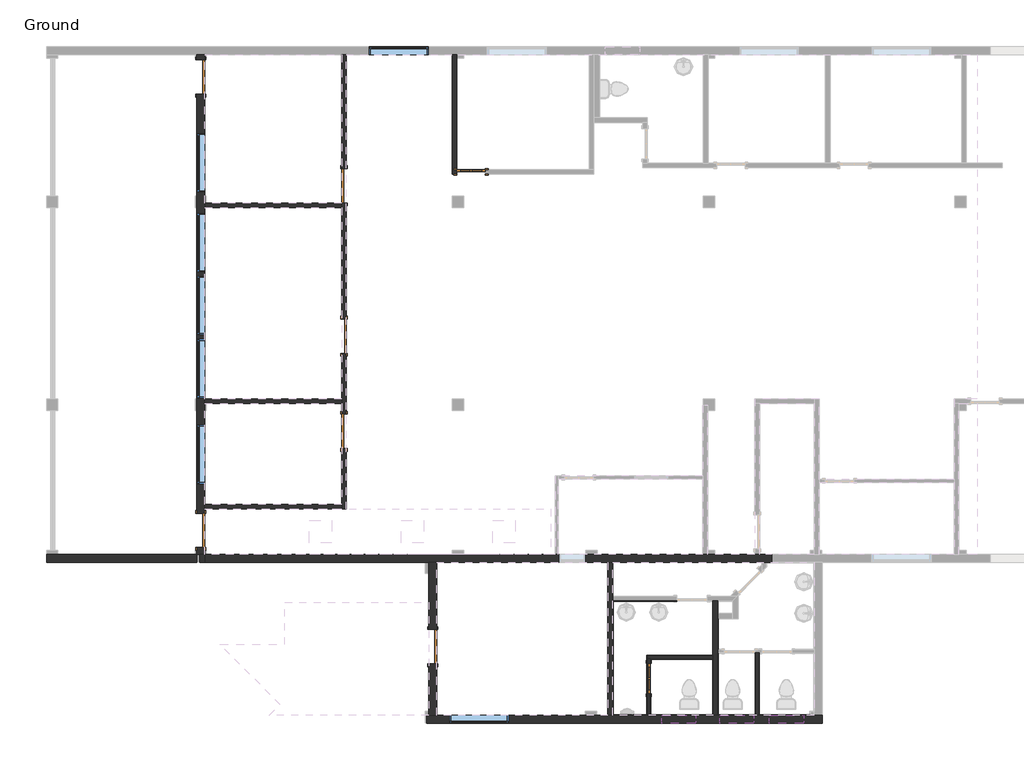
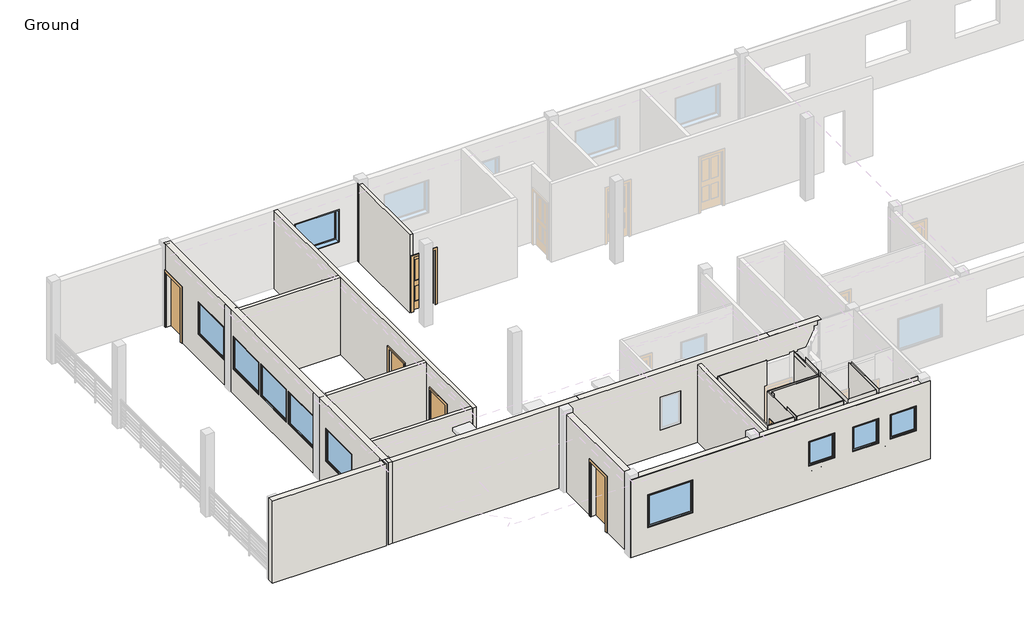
# One storey, part 1 of 4: 33 walls, 10 windows, 8 doors.
"""IFC4 building model written with IfcOpenShell, lengths in millimetres."""

from ifc_helpers import new_model, si_unit, frame, origin, origin_with_axes, place, context, project, spatial, polyline, outline, extrude, faceted_brep, transform, mapped, element, save
from components import door_43f271b1, door_0f3f7c0c, door_dce19e30, door_55521cee, door_bfc1a142, door_456b505c, fixed_3_x_3_w3_42a4cb5f, window_a0bf6c86

model = new_model("IFC4")

# Units and contexts
model_context = context("Model", 3, world=origin())
ifc_project = project(units=[si_unit("LENGTHUNIT", "METRE", prefix="MILLI")], contexts=[model_context])

# Site, building, storey
site = spatial("IfcSite", under=ifc_project)
building = spatial("IfcBuilding", under=site)
storey = spatial("IfcBuildingStorey", under=building, Name="Ground", Elevation=0.0)

# Doors
placement = place(None, origin())
door_shape = door_43f271b1(model_context)
element("IfcDoor", 1, ObjectType="Single-Flush : 36\" x 80\" - D1", at=placement, inside=storey, context=model_context, shape_type="MappedRepresentation", body=[
    mapped(door_shape, transform((-36104.115324, 12255.47279, 0.0), x_axis=(0.0, 1.0, 0.0), y_axis=(-1.0, 0.0, 0.0), z_axis=(0.0, 0.0, 1.0))),
])
element("IfcDoor", 2, ObjectType="Single-Flush : 36\" x 80\" - D1", at=placement, inside=storey, context=model_context, shape_type="MappedRepresentation", body=[
    mapped(door_shape, transform((-36104.115324, 14793.88529, 0.0), x_axis=(0.0, -1.0, 0.0), y_axis=(1.0, 0.0, 0.0), z_axis=(0.0, 0.0, 1.0))),
])
door_2_shape = door_0f3f7c0c(model_context)
element("IfcDoor", 3, ObjectType="Single-Flush : 36\" x 80\" - D1", at=placement, inside=storey, context=model_context, shape_type="MappedRepresentation", body=[
    mapped(door_2_shape, transform((-36104.115324, 18807.08529, 0.0), x_axis=(0.0, -1.0, 0.0), y_axis=(1.0, 0.0, 0.0), z_axis=(0.0, 0.0, 1.0))),
])
door_3_shape = door_dce19e30(model_context)
element("IfcDoor", 4, ObjectType="Single-Flush : 36\" x 80\" - D1", at=placement, inside=storey, context=model_context, shape_type="MappedRepresentation", body=[
    mapped(door_3_shape, transform((-39928.402824, 9610.9623734, 0.0), x_axis=(0.0, -1.0, 0.0), y_axis=(1.0, 0.0, 0.0), z_axis=(0.0, 0.0, 1.0))),
])
element("IfcDoor", 5, ObjectType="Single-Flush : 36\" x 80\" - D1", at=placement, inside=storey, context=model_context, shape_type="MappedRepresentation", body=[
    mapped(door_3_shape, transform((-33741.915324, 6503.96029, 0.0), x_axis=(0.0, -1.0, 0.0), y_axis=(1.0, 0.0, 0.0), z_axis=(0.0, 0.0, 1.0))),
])
door_4_shape = door_55521cee(model_context)
element("IfcDoor", 6, ObjectType="Single-Flush : 36\" x 80\" - D1", at=placement, inside=storey, context=model_context, shape_type="MappedRepresentation", body=[
    mapped(door_4_shape, transform((-39928.402824, 21710.62279, 0.0), x_axis=(0.0, 1.0, 0.0), y_axis=(-1.0, 0.0, 0.0), z_axis=(0.0, 0.0, 1.0))),
])
door_5_shape = door_bfc1a142(model_context)
element("IfcDoor", 7, ObjectType="Single-Glass 3 : 30\" x 80\" - D3", at=placement, inside=storey, context=model_context, shape_type="MappedRepresentation", body=[
    mapped(door_5_shape, transform((-32717.977824, 19180.14779, 0.0), x_axis=(-1.0, 0.0, 0.0), y_axis=(0.0, -1.0, 0.0), z_axis=(0.0, 0.0, 1.0))),
])
door_6_shape = door_456b505c(model_context)
element("IfcDoor", 8, ObjectType="Single-Glass 3 : 32\" x 80\" - D2", at=placement, inside=storey, context=model_context, shape_type="MappedRepresentation", body=[
    mapped(door_6_shape, transform((-27979.290324, 5653.06029, 0.0), x_axis=(0.0, 1.0, 0.0), y_axis=(-1.0, 0.0, 0.0), z_axis=(0.0, 0.0, 1.0))),
])

# Walls
element("IfcWall", 9, ObjectType="0.5\" wall tiles-4\" x 6\"", at=placement, inside=storey, context=model_context, shape_type="Brep", body=[
    faceted_brep([(-27229.812848, 7724.74779, 0.0), (-28941.315324, 7724.74779, 0.0), (-28941.315324, 7724.74779, 3048.0), (-27229.812848, 7724.74779, 3048.0), (-27229.812848, 7712.04779, 0.0), (-27229.812848, 7712.04779, 3048.0), (-28928.615324, 7712.04779, 3048.0), (-28941.315324, 7712.04779, 3048.0), (-28941.315324, 7712.04779, 0.0), (-28928.615324, 7712.04779, 0.0)], [[[0, 1, 2, 3]], [[4, 5, 6, 7, 8, 9]], [[1, 0, 4, 9, 8]], [[3, 2, 7, 6, 5]], [[0, 3, 5, 4]], [[2, 1, 8, 7]]]),
])
element("IfcWall", 10, ObjectType="0.5\" wall tiles-4\" x 6\"", at=placement, inside=storey, context=model_context, shape_type="Brep", body=[
    faceted_brep([(-28941.315324, 7712.04779, 0.0), (-28941.315324, 4675.16029, 0.0), (-28941.315324, 4675.16029, 3048.0), (-28941.315324, 7712.04779, 3048.0), (-28928.615324, 7712.04779, 0.0), (-28928.615324, 7712.04779, 3048.0), (-28928.615324, 4687.86029, 3048.0), (-28928.615324, 4675.16029, 3048.0), (-28928.615324, 4675.16029, 0.0), (-28928.615324, 4687.86029, 0.0)], [[[0, 1, 2, 3]], [[4, 5, 6, 7, 8, 9]], [[1, 0, 4, 9, 8]], [[3, 2, 7, 6, 5]], [[2, 1, 8, 7]], [[0, 3, 5, 4]]]),
])
element("IfcWall", 11, ObjectType="0.5\" wall tiles-4\" x 6\"", at=placement, inside=storey, context=model_context, shape_type="Brep", body=[
    faceted_brep([(-28928.615324, 4675.16029, 0.0), (-28018.977824, 4675.16029, 0.0), (-28018.977824, 4675.16029, 3048.0), (-28928.615324, 4675.16029, 3048.0), (-28928.615324, 4687.86029, 0.0), (-28928.615324, 4687.86029, 3048.0), (-28031.677824, 4687.86029, 3048.0), (-28018.977824, 4687.86029, 3048.0), (-28018.977824, 4687.86029, 0.0), (-28031.677824, 4687.86029, 0.0)], [[[0, 1, 2, 3]], [[4, 5, 6, 7, 8, 9]], [[1, 0, 4, 9, 8]], [[3, 2, 7, 6, 5]], [[2, 1, 8, 7]], [[0, 3, 5, 4]]]),
])
element("IfcWall", 12, ObjectType="0.5\" wall tiles-4\" x 6\"", at=placement, inside=storey, context=model_context, shape_type="Brep", body=[
    faceted_brep([(-28018.977824, 4687.86029, 0.0), (-28018.977824, 6265.83529, 0.0), (-28018.977824, 6278.53529, 0.0), (-28018.977824, 6278.53529, 3048.0), (-28018.977824, 6265.83529, 3048.0), (-28018.977824, 4687.86029, 3048.0), (-28031.677824, 4687.86029, 0.0), (-28031.677824, 4687.86029, 3048.0), (-28031.677824, 6278.53529, 3048.0), (-28031.677824, 6278.53529, 0.0)], [[[0, 1, 2, 3, 4, 5]], [[6, 7, 8, 9]], [[2, 1, 0, 6, 9]], [[5, 4, 3, 8, 7]], [[3, 2, 9, 8]], [[0, 5, 7, 6]]]),
])
element("IfcWall", 13, ObjectType="0.5\" wall tiles-4\" x 6\"", at=placement, inside=storey, context=model_context, shape_type="Brep", body=[
    faceted_brep([(-28018.977824, 6265.83529, 0.0), (-26263.202824, 6265.83529, 0.0), (-26263.202824, 6265.83529, 3048.0), (-28018.977824, 6265.83529, 3048.0), (-28018.977824, 6278.53529, 0.0), (-28018.977824, 6278.53529, 3048.0), (-26275.902824, 6278.53529, 3048.0), (-26263.202824, 6278.53529, 3048.0), (-26263.202824, 6278.53529, 0.0), (-26275.902824, 6278.53529, 0.0)], [[[0, 1, 2, 3]], [[4, 5, 6, 7, 8, 9]], [[1, 0, 4, 9, 8]], [[3, 2, 7, 6, 5]], [[2, 1, 8, 7]], [[0, 3, 5, 4]]]),
])
element("IfcWall", 14, ObjectType="0.5\" wall tiles-4\" x 6\"", at=placement, inside=storey, context=model_context, shape_type="Brep", body=[
    faceted_brep([(-26263.202824, 6278.53529, 0.0), (-26263.202824, 7724.74779, 0.0), (-26263.202824, 7724.74779, 3048.0), (-26263.202824, 6278.53529, 3048.0), (-26275.902824, 6278.53529, 0.0), (-26275.902824, 6278.53529, 3048.0), (-26275.902824, 7712.04779, 3048.0), (-26275.902824, 7724.74779, 3048.0), (-26275.902824, 7724.74779, 0.0), (-26275.902824, 7712.04779, 0.0)], [[[0, 1, 2, 3]], [[4, 5, 6, 7, 8, 9]], [[1, 0, 4, 9, 8]], [[3, 2, 7, 6, 5]], [[2, 1, 8, 7]], [[0, 3, 5, 4]]]),
])
element("IfcWall", 15, ObjectType="0.5\" wall tiles-4\" x 6\"", at=placement, inside=storey, context=model_context, shape_type="Brep", body=[
    faceted_brep([(-26263.202824, 6186.46029, 0.0), (-27939.602824, 6186.46029, 0.0), (-27939.602824, 6186.46029, 3048.0), (-26263.202824, 6186.46029, 3048.0), (-26263.202824, 6173.76029, 0.0), (-26263.202824, 6173.76029, 3048.0), (-26275.902824, 6173.76029, 3048.0), (-27926.902824, 6173.76029, 3048.0), (-27939.602824, 6173.76029, 3048.0), (-27939.602824, 6173.76029, 0.0), (-27926.902824, 6173.76029, 0.0), (-26275.902824, 6173.76029, 0.0)], [[[0, 1, 2, 3]], [[4, 5, 6, 7, 8, 9, 10, 11]], [[1, 0, 4, 11, 10, 9]], [[3, 2, 8, 7, 6, 5]], [[2, 1, 9, 8]], [[0, 3, 5, 4]]]),
])
element("IfcWall", 16, ObjectType="0.5\" wall tiles-4\" x 6\"", at=placement, inside=storey, context=model_context, shape_type="SweptSolid", body=[
    extrude(outline(polyline([(-27939.602824, 6059.46029), (-27939.602824, 6173.76029), (-27926.902824, 6173.76029), (-27926.902824, 6059.46029), (-27939.602824, 6059.46029)])), origin_with_axes(), (0.0, 0.0, 1.0), 3048.0),
])
element("IfcWall", 17, ObjectType="0.5\" wall tiles-4\" x 6\"", at=placement, inside=storey, context=model_context, shape_type="Brep", body=[
    faceted_brep([(-26263.202824, 4675.16029, 0.0), (-26263.202824, 6173.76029, 0.0), (-26263.202824, 6173.76029, 3048.0), (-26263.202824, 4675.16029, 3048.0), (-26275.902824, 4675.16029, 0.0), (-26275.902824, 4675.16029, 3048.0), (-26275.902824, 4687.86029, 3048.0), (-26275.902824, 6173.76029, 3048.0), (-26275.902824, 6173.76029, 0.0), (-26275.902824, 4687.86029, 0.0)], [[[0, 1, 2, 3]], [[4, 5, 6, 7, 8, 9]], [[1, 0, 4, 9, 8]], [[3, 2, 7, 6, 5]], [[0, 3, 5, 4]], [[2, 1, 8, 7]]]),
])
element("IfcWall", 18, ObjectType="0.5\" wall tiles-4\" x 6\"", at=placement, inside=storey, context=model_context, shape_type="Brep", body=[
    faceted_brep([(-27939.602824, 5245.2502661, 0.0), (-27939.602824, 4675.16029, 0.0), (-27939.602824, 4675.16029, 3048.0), (-27939.602824, 5245.2502661, 3048.0), (-27926.902824, 5245.2502661, 0.0), (-27926.902824, 5245.2502661, 3048.0), (-27926.902824, 4687.86029, 3048.0), (-27926.902824, 4675.16029, 3048.0), (-27926.902824, 4675.16029, 0.0), (-27926.902824, 4687.86029, 0.0)], [[[0, 1, 2, 3]], [[4, 5, 6, 7, 8, 9]], [[1, 0, 4, 9, 8]], [[3, 2, 7, 6, 5]], [[0, 3, 5, 4]], [[2, 1, 8, 7]]]),
])
element("IfcWall", 19, ObjectType="0.5\" wall tiles-4\" x 6\"", at=placement, inside=storey, context=model_context, shape_type="SweptSolid", body=[
    extrude(outline(polyline([(-26275.902824, 4675.16029), (-27926.902824, 4675.16029), (-27926.902824, 4687.86029), (-26275.902824, 4687.86029), (-26275.902824, 4675.16029)])), origin_with_axes(), (0.0, 0.0, 1.0), 3048.0),
])
element("IfcWall", 20, ObjectType="0.5\" wall tiles-4\" x 6\"", at=placement, inside=storey, context=model_context, shape_type="Brep", body=[
    faceted_brep([(-26136.202824, 7242.14779, 0.0), (-26136.202824, 6430.93529, 0.0), (-26136.202824, 6430.93529, 3048.0), (-26136.202824, 7242.14779, 3048.0), (-26136.202824, 7242.14779, 2743.2), (-26123.502824, 7242.14779, 0.0), (-26123.502824, 7242.14779, 3048.0), (-26123.502824, 6430.93529, 3048.0), (-26123.502824, 6430.93529, 0.0)], [[[0, 1, 2, 3, 4]], [[5, 6, 7, 8]], [[1, 0, 5, 8]], [[3, 2, 7, 6]], [[2, 1, 8, 7]], [[0, 4, 3, 6, 5]]]),
])
element("IfcWall", 21, ObjectType="0.5\" wall tiles-4\" x 6\"", at=placement, inside=storey, context=model_context, shape_type="Brep", body=[
    faceted_brep([(-26136.202824, 6326.16029, 0.0), (-26136.202824, 4675.16029, 0.0), (-26136.202824, 4675.16029, 3048.0), (-26136.202824, 6326.16029, 3048.0), (-26123.502824, 6326.16029, 0.0), (-26123.502824, 6326.16029, 3048.0), (-26123.502824, 4687.86029, 3048.0), (-26123.502824, 4675.16029, 3048.0), (-26123.502824, 4675.16029, 0.0), (-26123.502824, 4687.86029, 0.0)], [[[0, 1, 2, 3]], [[4, 5, 6, 7, 8, 9]], [[1, 0, 4, 9, 8]], [[3, 2, 7, 6, 5]], [[2, 1, 8, 7]], [[0, 3, 5, 4]]]),
])
element("IfcWall", 22, ObjectType="0.5\" wall tiles-4\" x 6\"", at=placement, inside=storey, context=model_context, shape_type="Brep", body=[
    faceted_brep([(-26123.502824, 4675.16029, 0.0), (-25123.377824, 4675.16029, 0.0), (-25123.377824, 4675.16029, 3048.0), (-26123.502824, 4675.16029, 3048.0), (-26123.502824, 4687.86029, 0.0), (-26123.502824, 4687.86029, 3048.0), (-25136.077824, 4687.86029, 3048.0), (-25123.377824, 4687.86029, 3048.0), (-25123.377824, 4687.86029, 0.0), (-25136.077824, 4687.86029, 0.0)], [[[0, 1, 2, 3]], [[4, 5, 6, 7, 8, 9]], [[1, 0, 4, 9, 8]], [[3, 2, 7, 6, 5]], [[2, 1, 8, 7]], [[0, 3, 5, 4]]]),
])
element("IfcWall", 23, ObjectType="0.5\" wall tiles-4\" x 6\"", at=placement, inside=storey, context=model_context, shape_type="SweptSolid", body=[
    extrude(outline(polyline([(-25123.377824, 6337.27279), (-25123.377824, 4687.86029), (-25136.077824, 4687.86029), (-25136.077824, 6337.27279), (-25123.377824, 6337.27279)])), origin_with_axes(), (0.0, 0.0, 1.0), 3048.0),
])
element("IfcWall", 24, ObjectType="0.5\" wall tiles-4\" x 6\"", at=placement, inside=storey, context=model_context, shape_type="Brep", body=[
    faceted_brep([(-25044.002824, 6337.27279, 0.0), (-25044.002824, 4675.16029, 0.0), (-25044.002824, 4675.16029, 3048.0), (-25044.002824, 6337.27279, 3048.0), (-25031.302824, 6337.27279, 0.0), (-25031.302824, 6337.27279, 3048.0), (-25031.302824, 4687.86029, 3048.0), (-25031.302824, 4675.16029, 3048.0), (-25031.302824, 4675.16029, 0.0), (-25031.302824, 4687.86029, 0.0)], [[[0, 1, 2, 3]], [[4, 5, 6, 7, 8, 9]], [[1, 0, 4, 9, 8]], [[3, 2, 7, 6, 5]], [[0, 3, 5, 4]], [[2, 1, 8, 7]]]),
])
element("IfcWall", 25, ObjectType="0.5\" wall tiles-4\" x 6\"", at=placement, inside=storey, context=model_context, shape_type="Brep", body=[
    faceted_brep([(-25031.302824, 4675.16029, 0.0), (-23664.465324, 4675.16029, 0.0), (-23664.465324, 4675.16029, 3048.0), (-25031.302824, 4675.16029, 3048.0), (-25031.302824, 4687.86029, 0.0), (-25031.302824, 4687.86029, 3048.0), (-23677.165324, 4687.86029, 3048.0), (-23664.465324, 4687.86029, 3048.0), (-23664.465324, 4687.86029, 0.0), (-23677.165324, 4687.86029, 0.0)], [[[0, 1, 2, 3]], [[4, 5, 6, 7, 8, 9]], [[1, 0, 4, 9, 8]], [[3, 2, 7, 6, 5]], [[2, 1, 8, 7]], [[0, 3, 5, 4]]]),
])
element("IfcWall", 26, ObjectType="Generic - 8\" Masonry existing", at=placement, inside=storey, context=model_context, shape_type="Brep", body=[
    faceted_brep([(-40037.940324, 8972.52279, 3048.0), (-40037.940324, 22307.52279, 3048.0), (-40037.940324, 22307.52279, 0.0), (-40037.940324, 22167.82279, 0.0), (-40037.940324, 22167.82279, 2032.0), (-40037.940324, 21253.42279, 2032.0), (-40037.940324, 21253.42279, 0.0), (-40037.940324, 10068.1623734, 0.0), (-40037.940324, 10068.1623734, 2032.0), (-40037.940324, 9153.7623734, 2032.0), (-40037.940324, 9153.7623734, 0.0), (-40037.940324, 8972.52279, 0.0), (-40037.940324, 12426.92279, 914.4), (-40037.940324, 12426.92279, 2133.6), (-40037.940324, 10852.12279, 2133.6), (-40037.940324, 10852.12279, 914.4), (-40037.940324, 14716.09779, 2133.6), (-40037.940324, 13141.29779, 2133.6), (-40037.940324, 13141.29779, 914.4), (-40037.940324, 14716.09779, 914.4), (-40037.940324, 16402.02279, 2133.6), (-40037.940324, 14827.22279, 2133.6), (-40037.940324, 14827.22279, 914.4), (-40037.940324, 16402.02279, 914.4), (-40037.940324, 18078.42279, 2133.6), (-40037.940324, 16503.62279, 2133.6), (-40037.940324, 16503.62279, 914.4), (-40037.940324, 18078.42279, 914.4), (-40037.940324, 20212.02279, 2133.6), (-40037.940324, 18637.22279, 2133.6), (-40037.940324, 18637.22279, 914.4), (-40037.940324, 20212.02279, 914.4), (-39818.865324, 22307.52279, 3048.0), (-39818.865324, 8972.52279, 3048.0), (-39818.865324, 8972.52279, 0.0), (-39818.865324, 9153.7623734, 0.0), (-39818.865324, 9153.7623734, 2032.0), (-39818.865324, 10068.1623734, 2032.0), (-39818.865324, 10068.1623734, 0.0), (-39818.865324, 10181.1394567, 0.0), (-39818.865324, 10304.9644567, 0.0), (-39818.865324, 12993.66029, 0.0), (-39818.865324, 13117.48529, 0.0), (-39818.865324, 18226.06029, 0.0), (-39818.865324, 18349.88529, 0.0), (-39818.865324, 21253.42279, 0.0), (-39818.865324, 21253.42279, 2032.0), (-39818.865324, 22167.82279, 2032.0), (-39818.865324, 22167.82279, 0.0), (-39818.865324, 22307.52279, 0.0), (-39818.865324, 12426.92279, 2133.6), (-39818.865324, 12426.92279, 914.4), (-39818.865324, 10852.12279, 914.4), (-39818.865324, 10852.12279, 2133.6), (-39818.865324, 14716.09779, 2133.6), (-39818.865324, 14716.09779, 914.4), (-39818.865324, 13141.29779, 914.4), (-39818.865324, 13141.29779, 2133.6), (-39818.865324, 16402.02279, 2133.6), (-39818.865324, 16402.02279, 914.4), (-39818.865324, 14827.22279, 914.4), (-39818.865324, 14827.22279, 2133.6), (-39818.865324, 18078.42279, 2133.6), (-39818.865324, 18078.42279, 914.4), (-39818.865324, 16503.62279, 914.4), (-39818.865324, 16503.62279, 2133.6), (-39818.865324, 20212.02279, 2133.6), (-39818.865324, 20212.02279, 914.4), (-39818.865324, 18637.22279, 914.4), (-39818.865324, 18637.22279, 2133.6), (-39961.740324, 8972.52279, 0.0), (-39961.740324, 8972.52279, 3048.0)], [[[0, 1, 2, 3, 4, 5, 6, 7, 8, 9, 10, 11], [12, 13, 14, 15], [16, 17, 18, 19], [20, 21, 22, 23], [24, 25, 26, 27], [28, 29, 30, 31]], [[32, 33, 34, 35, 36, 37, 38, 39, 40, 41, 42, 43, 44, 45, 46, 47, 48, 49], [50, 51, 52, 53], [54, 55, 56, 57], [58, 59, 60, 61], [62, 63, 64, 65], [66, 67, 68, 69]], [[34, 70, 11, 10, 35]], [[2, 49, 48, 3]], [[38, 7, 6, 45, 44, 43, 42, 41, 40, 39]], [[1, 0, 71, 33, 32]], [[0, 11, 70, 34, 33, 71]], [[2, 1, 32, 49]], [[36, 35, 10, 9]], [[37, 36, 9, 8]], [[38, 37, 8, 7]], [[4, 3, 48, 47]], [[5, 4, 47, 46]], [[6, 5, 46, 45]], [[50, 13, 12, 51]], [[51, 12, 15, 52]], [[14, 53, 52, 15]], [[13, 50, 53, 14]], [[55, 54, 16, 19]], [[56, 55, 19, 18]], [[57, 56, 18, 17]], [[54, 57, 17, 16]], [[59, 58, 20, 23]], [[60, 59, 23, 22]], [[61, 60, 22, 21]], [[58, 61, 21, 20]], [[63, 62, 24, 27]], [[64, 63, 27, 26]], [[65, 64, 26, 25]], [[62, 65, 25, 24]], [[67, 66, 28, 31]], [[68, 67, 31, 30]], [[69, 68, 30, 29]], [[66, 69, 29, 28]]]),
])
element("IfcWall", 27, ObjectType="Generic - 8\" Masonry existing", at=placement, inside=storey, context=model_context, shape_type="SweptSolid", body=[
    extrude(outline(polyline([(-40037.940324, 8753.44779), (-44043.202824, 8753.44779), (-44043.202824, 8972.52279), (-40037.940324, 8972.52279), (-40037.940324, 8753.44779)])), origin_with_axes(), (0.0, 0.0, 1.0), 3048.0),
])
element("IfcWall", 28, ObjectType="Generic - 8\" Masonry existing", at=placement, inside=storey, context=model_context, shape_type="SweptSolid", body=[
    extrude(outline(polyline([(6046.76029, 2032.0), (6046.76029, 0.0), (4675.16029, 0.0), (4675.16029, 2895.6), (8753.44779, 2895.6), (8753.44779, 0.0), (6961.16029, 0.0), (6961.16029, 2032.0), (6046.76029, 2032.0)])), frame((-33851.452824, 0.0, 0.0), z_axis=(1.0, 0.0, 0.0), x_axis=(0.0, 1.0, 0.0)), (0.0, 0.0, 1.0), 219.075),
])
element("IfcWall", 29, ObjectType="Generic - 8\" Masonry existing", at=placement, inside=storey, context=model_context, shape_type="Brep", body=[
    faceted_brep([(-33900.8582358, 4456.08529, 0.0), (-23346.965324, 4456.08529, 0.0), (-23346.965324, 4456.08529, 2895.6), (-23359.665324, 4456.08529, 2895.6), (-33900.8582358, 4456.08529, 2895.6), (-27634.802824, 4456.08529, 2133.6), (-26720.402824, 4456.08529, 2133.6), (-26720.402824, 4456.08529, 1219.2), (-27634.802824, 4456.08529, 1219.2), (-26086.990324, 4456.08529, 2133.6), (-25172.590324, 4456.08529, 2133.6), (-25172.590324, 4456.08529, 1219.2), (-26086.990324, 4456.08529, 1219.2), (-24762.221574, 4456.08529, 2133.6), (-23847.821574, 4456.08529, 2133.6), (-23847.821574, 4456.08529, 1219.2), (-24762.221574, 4456.08529, 1219.2), (-33292.652824, 4456.08529, 2133.6), (-31717.852824, 4456.08529, 2133.6), (-31717.852824, 4456.08529, 914.4), (-33292.652824, 4456.08529, 914.4), (-33900.8582358, 4675.16029, 0.0), (-33900.8582358, 4675.16029, 2895.6), (-33851.452824, 4675.16029, 2895.6), (-33632.377824, 4675.16029, 2895.6), (-29065.140324, 4675.16029, 2895.6), (-28941.315324, 4675.16029, 2895.6), (-28018.977824, 4675.16029, 2895.6), (-27939.602824, 4675.16029, 2895.6), (-26263.202824, 4675.16029, 2895.6), (-26136.202824, 4675.16029, 2895.6), (-25123.377824, 4675.16029, 2895.6), (-25044.002824, 4675.16029, 2895.6), (-23566.040324, 4675.16029, 2895.6), (-23359.665324, 4675.16029, 2895.6), (-23346.965324, 4675.16029, 2895.6), (-23346.965324, 4675.16029, 0.0), (-23566.040324, 4675.16029, 0.0), (-25044.002824, 4675.16029, 0.0), (-25123.377824, 4675.16029, 0.0), (-26136.202824, 4675.16029, 0.0), (-26263.202824, 4675.16029, 0.0), (-27939.602824, 4675.16029, 0.0), (-28018.977824, 4675.16029, 0.0), (-28941.315324, 4675.16029, 0.0), (-29065.140324, 4675.16029, 0.0), (-33632.377824, 4675.16029, 0.0), (-33851.452824, 4675.16029, 0.0), (-27634.802824, 4675.16029, 2133.6), (-27634.802824, 4675.16029, 1219.2), (-26720.402824, 4675.16029, 1219.2), (-26720.402824, 4675.16029, 2133.6), (-26086.990324, 4675.16029, 2133.6), (-26086.990324, 4675.16029, 1219.2), (-25172.590324, 4675.16029, 1219.2), (-25172.590324, 4675.16029, 2133.6), (-24762.221574, 4675.16029, 2133.6), (-24762.221574, 4675.16029, 1219.2), (-23847.821574, 4675.16029, 1219.2), (-23847.821574, 4675.16029, 2133.6), (-33292.652824, 4675.16029, 2133.6), (-33292.652824, 4675.16029, 914.4), (-31717.852824, 4675.16029, 914.4), (-31717.852824, 4675.16029, 2133.6), (-33900.8582358, 4468.78529, 2895.6), (-23346.965324, 4468.78529, 2895.6), (-23359.665324, 4468.78529, 2895.6)], [[[0, 1, 2, 3, 4], [5, 6, 7, 8], [9, 10, 11, 12], [13, 14, 15, 16], [17, 18, 19, 20]], [[21, 22, 23, 24, 25, 26, 27, 28, 29, 30, 31, 32, 33, 34, 35, 36, 37, 38, 39, 40, 41, 42, 43, 44, 45, 46, 47], [48, 49, 50, 51], [52, 53, 54, 55], [56, 57, 58, 59], [60, 61, 62, 63]], [[1, 0, 21, 47, 46, 45, 44, 43, 42, 41, 40, 39, 38, 37, 36]], [[0, 4, 64, 22, 21]], [[2, 1, 36, 35, 65]], [[4, 3, 66, 64]], [[65, 35, 34, 66]], [[3, 2, 65, 66]], [[66, 34, 33, 32, 31, 30, 29, 28, 27, 26, 25, 24, 23, 22, 64]], [[49, 48, 5, 8]], [[50, 49, 8, 7]], [[51, 50, 7, 6]], [[48, 51, 6, 5]], [[53, 52, 9, 12]], [[54, 53, 12, 11]], [[55, 54, 11, 10]], [[52, 55, 10, 9]], [[57, 56, 13, 16]], [[58, 57, 16, 15]], [[59, 58, 15, 14]], [[56, 59, 14, 13]], [[61, 60, 17, 20]], [[62, 61, 20, 19]], [[63, 62, 19, 18]], [[60, 63, 18, 17]]]),
])
element("IfcWall", 30, ObjectType="Generic - 8\" Masonry existing", at=placement, inside=storey, context=model_context, shape_type="Brep", body=[
    faceted_brep([(-24701.102824, 8753.44779, 3048.0), (-24701.102824, 8753.44779, 2895.6), (-24701.102824, 8753.44779, 0.0), (-24701.102824, 8972.52279, 0.0), (-24701.102824, 8972.52279, 2895.6), (-24701.102824, 8972.52279, 3048.0), (-24836.040324, 8753.44779, 0.0), (-24959.865324, 8753.44779, 0.0), (-28941.315324, 8753.44779, 0.0), (-29065.140324, 8753.44779, 0.0), (-33632.377824, 8753.44779, 0.0), (-33851.452824, 8753.44779, 0.0), (-39818.865324, 8753.44779, 0.0), (-39818.865324, 8972.52279, 0.0), (-30476.427824, 8972.52279, 0.0), (-30397.052824, 8972.52279, 0.0), (-26533.077824, 8972.52279, 0.0), (-26409.252824, 8972.52279, 0.0), (-25144.015324, 8972.52279, 0.0), (-25020.190324, 8972.52279, 0.0), (-39818.865324, 8753.44779, 3048.0), (-39818.865324, 8972.52279, 3048.0), (-30371.652824, 8753.44779, 2133.6), (-29660.452824, 8753.44779, 2133.6), (-29660.452824, 8753.44779, 914.4), (-30371.652824, 8753.44779, 914.4), (-30371.652824, 8972.52279, 2133.6), (-30371.652824, 8972.52279, 914.4), (-29660.452824, 8972.52279, 914.4), (-29660.452824, 8972.52279, 2133.6)], [[[0, 1, 2, 3, 4, 5]], [[2, 6, 7, 8, 9, 10, 11, 12, 13, 14, 15, 16, 17, 18, 19, 3]], [[20, 0, 5, 21]], [[12, 11, 10, 9, 8, 7, 6, 2, 1, 0, 20], [22, 23, 24, 25]], [[13, 21, 5, 4, 3, 19, 18, 17, 16, 15, 14], [26, 27, 28, 29]], [[12, 20, 21, 13]], [[27, 26, 22, 25]], [[28, 27, 25, 24]], [[29, 28, 24, 23]], [[26, 29, 23, 22]]]),
])
element("IfcWall", 31, ObjectType="Generic - 8\" Masonry existing", at=placement, inside=storey, context=model_context, shape_type="SweptSolid", body=[
    extrude(outline(polyline([(-39818.865324, 8753.44779), (-39961.740324, 8753.44779), (-39961.740324, 8972.52279), (-39818.865324, 8972.52279), (-39818.865324, 8753.44779)])), origin_with_axes(), (0.0, 0.0, 1.0), 3048.0),
])
element("IfcWall", 32, ObjectType="Interior - 3 1/8\" Partition (1-hr)", at=placement, inside=storey, context=model_context, shape_type="SweptSolid", body=[
    extrude(outline(polyline([(-25044.002824, 6338.86029), (-25044.002824, 4675.16029), (-25123.377824, 4675.16029), (-25123.377824, 6338.86029), (-25044.002824, 6338.86029)])), origin_with_axes(), (0.0, 0.0, 1.0), 2895.6),
])
element("IfcWall", 33, ObjectType="Interior - 3 1/8\" Partition (1-hr)", at=placement, inside=storey, context=model_context, shape_type="Brep", body=[
    faceted_brep([(-26263.202824, 6265.83529, 0.0), (-28018.977824, 6265.83529, 0.0), (-28018.977824, 6265.83529, 2895.6), (-26263.202824, 6265.83529, 2895.6), (-26263.202824, 6186.46029, 0.0), (-26263.202824, 6186.46029, 2895.6), (-27939.602824, 6186.46029, 2895.6), (-28018.977824, 6186.46029, 2895.6), (-28018.977824, 6186.46029, 0.0), (-27939.602824, 6186.46029, 0.0)], [[[0, 1, 2, 3]], [[4, 5, 6, 7, 8, 9]], [[1, 0, 4, 9, 8]], [[3, 2, 7, 6, 5]], [[2, 1, 8, 7]], [[0, 3, 5, 4]]]),
])
element("IfcWall", 34, ObjectType="Interior - 3 1/8\" Partition (1-hr)", at=placement, inside=storey, context=model_context, shape_type="SweptSolid", body=[
    extrude(outline(polyline([(4675.16029, 2895.6), (6186.46029, 2895.6), (6186.46029, 0.0), (6059.3362735, 0.0), (6059.3362735, 2032.0), (5246.5362735, 2032.0), (5246.5362735, 0.0), (4675.16029, 0.0), (4675.16029, 2895.6)])), frame((-28018.977824, 0.0, 0.0), z_axis=(1.0, 0.0, 0.0), x_axis=(0.0, 1.0, 0.0)), (0.0, 0.0, 1.0), 79.375),
])
element("IfcWall", 35, ObjectType="Interior - 5 1/2\" Partition (1-hr)", at=placement, inside=storey, context=model_context, shape_type="Brep", body=[
    faceted_brep([(-36166.027824, 14336.68529, 2032.0), (-36166.027824, 14336.68529, 0.0), (-36166.027824, 13117.48529, 0.0), (-36166.027824, 12993.66029, 0.0), (-36166.027824, 12712.67279, 0.0), (-36166.027824, 12712.67279, 2032.0), (-36166.027824, 11798.27279, 2032.0), (-36166.027824, 11798.27279, 0.0), (-36166.027824, 10304.9644567, 0.0), (-36166.027824, 10181.1394567, 0.0), (-36166.027824, 10181.1394567, 2895.6), (-36166.027824, 10304.9644567, 2895.6), (-36166.027824, 12993.66029, 2895.6), (-36166.027824, 13117.48529, 2895.6), (-36166.027824, 18226.06029, 2895.6), (-36166.027824, 18349.88529, 2895.6), (-36166.027824, 22307.52279, 2895.6), (-36166.027824, 22307.52279, 0.0), (-36166.027824, 19264.28529, 0.0), (-36166.027824, 19264.28529, 2032.0), (-36166.027824, 18349.88529, 2032.0), (-36166.027824, 18349.88529, 0.0), (-36166.027824, 18226.06029, 0.0), (-36166.027824, 15251.08529, 0.0), (-36166.027824, 15251.08529, 2032.0), (-36042.202824, 12712.67279, 0.0), (-36042.202824, 14336.68529, 0.0), (-36042.202824, 14336.68529, 2032.0), (-36042.202824, 15251.08529, 2032.0), (-36042.202824, 15251.08529, 0.0), (-36042.202824, 18349.88529, 0.0), (-36042.202824, 18349.88529, 2032.0), (-36042.202824, 19264.28529, 2032.0), (-36042.202824, 19264.28529, 0.0), (-36042.202824, 22307.52279, 0.0), (-36042.202824, 22307.52279, 2895.6), (-36042.202824, 10181.1394567, 2895.6), (-36042.202824, 10181.1394567, 0.0), (-36042.202824, 11798.27279, 0.0), (-36042.202824, 11798.27279, 2032.0), (-36042.202824, 12712.67279, 2032.0)], [[[0, 1, 2, 3, 4, 5, 6, 7, 8, 9, 10, 11, 12, 13, 14, 15, 16, 17, 18, 19, 20, 21, 22, 23, 24]], [[25, 26, 27, 28, 29, 30, 31, 32, 33, 34, 35, 36, 37, 38, 39, 40]], [[4, 3, 2, 1, 26, 25]], [[18, 17, 34, 33]], [[38, 37, 9, 8, 7]], [[23, 22, 21, 30, 29]], [[16, 15, 14, 13, 12, 11, 10, 36, 35]], [[10, 9, 37, 36]], [[17, 16, 35, 34]], [[31, 30, 21, 20]], [[32, 31, 20, 19]], [[33, 32, 19, 18]], [[5, 4, 25, 40]], [[6, 5, 40, 39]], [[7, 6, 39, 38]], [[27, 26, 1, 0]], [[28, 27, 0, 24]], [[29, 28, 24, 23]]]),
])
element("IfcWall", 36, ObjectType="Interior - 5 1/2\" Partition (1-hr)", at=placement, inside=storey, context=model_context, shape_type="Brep", body=[
    faceted_brep([(-39818.865324, 18226.06029, 0.0), (-36166.027824, 18226.06029, 0.0), (-36166.027824, 18226.06029, 2895.6), (-39818.865324, 18226.06029, 2895.6), (-39818.865324, 18349.88529, 0.0), (-39818.865324, 18349.88529, 2895.6), (-36166.027824, 18349.88529, 2895.6), (-36166.027824, 18349.88529, 2032.0), (-36166.027824, 18349.88529, 0.0)], [[[0, 1, 2, 3]], [[4, 5, 6, 7, 8]], [[1, 0, 4, 8]], [[3, 2, 6, 5]], [[2, 1, 8, 7, 6]], [[0, 3, 5, 4]]]),
])
element("IfcWall", 37, ObjectType="Interior - 5 1/2\" Partition (1-hr)", at=placement, inside=storey, context=model_context, shape_type="SweptSolid", body=[
    extrude(outline(polyline([(-36166.027824, 12993.66029), (-39818.865324, 12993.66029), (-39818.865324, 13117.48529), (-36166.027824, 13117.48529), (-36166.027824, 12993.66029)])), origin_with_axes(), (0.0, 0.0, 1.0), 2895.6),
])
element("IfcWall", 38, ObjectType="Interior - 5 1/2\" Partition (1-hr)", at=placement, inside=storey, context=model_context, shape_type="Brep", body=[
    faceted_brep([(-33222.802824, 22307.52279, 0.0), (-33222.802824, 19118.23529, 0.0), (-33222.802824, 19118.23529, 2895.6), (-33222.802824, 22307.52279, 2895.6), (-33098.977824, 22307.52279, 0.0), (-33098.977824, 22307.52279, 2895.6), (-33098.977824, 19242.06029, 2895.6), (-33098.977824, 19118.23529, 2895.6), (-33098.977824, 19118.23529, 2032.0), (-33098.977824, 19118.23529, 0.0)], [[[0, 1, 2, 3]], [[4, 5, 6, 7, 8, 9]], [[1, 0, 4, 9]], [[3, 2, 7, 6, 5]], [[2, 1, 9, 8, 7]], [[0, 3, 5, 4]]]),
])
element("IfcWall", 39, ObjectType="Interior - 5 1/2\" Partition (1-hr)", at=placement, inside=storey, context=model_context, shape_type="Brep", body=[
    faceted_brep([(-29065.140324, 8753.44779, 0.0), (-29065.140324, 4675.16029, 0.0), (-29065.140324, 4675.16029, 2895.6), (-29065.140324, 8753.44779, 2895.6), (-28941.315324, 8753.44779, 0.0), (-28941.315324, 8753.44779, 2895.6), (-28941.315324, 7851.74779, 2895.6), (-28941.315324, 7724.74779, 2895.6), (-28941.315324, 4675.16029, 2895.6), (-28941.315324, 4675.16029, 0.0), (-28941.315324, 7724.74779, 0.0), (-28941.315324, 7851.74779, 0.0)], [[[0, 1, 2, 3]], [[4, 5, 6, 7, 8, 9, 10, 11]], [[1, 0, 4, 11, 10, 9]], [[3, 2, 8, 7, 6, 5]], [[2, 1, 9, 8]], [[0, 3, 5, 4]]]),
])
element("IfcWall", 40, ObjectType="Interior - 5 1/2\" Partition (1-hr)", at=placement, inside=storey, context=model_context, shape_type="SweptSolid", body=[
    extrude(outline(polyline([(-36166.027824, 10181.1394567), (-39818.865324, 10181.1394567), (-39818.865324, 10304.9644567), (-36166.027824, 10304.9644567), (-36166.027824, 10181.1394567)])), origin_with_axes(), (0.0, 0.0, 1.0), 2895.6),
])
element("IfcWall", 41, ObjectType="Interior - 5\" Partition (2-hr)", at=placement, inside=storey, context=model_context, shape_type="Brep", body=[
    faceted_brep([(-26263.202824, 7724.74779, 0.0), (-26263.202824, 6265.83529, 0.0), (-26263.202824, 6186.46029, 0.0), (-26263.202824, 4675.16029, 0.0), (-26263.202824, 4675.16029, 2895.6), (-26263.202824, 6186.46029, 2895.6), (-26263.202824, 6265.83529, 2895.6), (-26263.202824, 7724.74779, 2895.6), (-26136.202824, 7724.74779, 0.0), (-26136.202824, 7724.74779, 2895.6), (-26136.202824, 6418.23529, 2895.6), (-26136.202824, 6338.86029, 2895.6), (-26136.202824, 4675.16029, 2895.6), (-26136.202824, 4675.16029, 0.0), (-26136.202824, 6338.86029, 0.0), (-26136.202824, 6418.23529, 0.0), (-26136.202824, 7242.14779, 0.0), (-26136.202824, 7394.54779, 0.0)], [[[0, 1, 2, 3, 4, 5, 6, 7]], [[8, 9, 10, 11, 12, 13, 14, 15, 16, 17]], [[3, 2, 1, 0, 8, 17, 16, 15, 14, 13]], [[7, 6, 5, 4, 12, 11, 10, 9]], [[4, 3, 13, 12]], [[0, 7, 9, 8]]]),
])

# Windows
fixed_3_x_3_w3_shape = fixed_3_x_3_w3_42a4cb5f(model_context)
element("IfcWindow", 42, ObjectType="Fixed : 3'x 3' - W3", at=placement, inside=storey, context=model_context, shape_type="MappedRepresentation", body=[
    mapped(fixed_3_x_3_w3_shape, transform((-24343.121574, 4565.62279, -304.8), x_axis=(-1.0, 0.0, 0.0), y_axis=(0.0, -1.0, 0.0), z_axis=(0.0, 0.0, 1.0))),
])
element("IfcWindow", 43, ObjectType="Fixed : 3'x 3' - W3", at=placement, inside=storey, context=model_context, shape_type="MappedRepresentation", body=[
    mapped(fixed_3_x_3_w3_shape, transform((-25667.890324, 4565.62279, -304.8), x_axis=(-1.0, 0.0, 0.0), y_axis=(0.0, -1.0, 0.0), z_axis=(0.0, 0.0, 1.0))),
])
element("IfcWindow", 44, ObjectType="Fixed : 3'x 3' - W3", at=placement, inside=storey, context=model_context, shape_type="MappedRepresentation", body=[
    mapped(fixed_3_x_3_w3_shape, transform((-27215.702824, 4565.62279, -304.8), x_axis=(-1.0, 0.0, 0.0), y_axis=(0.0, -1.0, 0.0), z_axis=(0.0, 0.0, 1.0))),
])
window_shape = window_a0bf6c86(model_context)
element("IfcWindow", 45, ObjectType="Fixed : 60\" x 48\" - W1", at=placement, inside=storey, context=model_context, shape_type="MappedRepresentation", body=[
    mapped(window_shape, transform((-34607.102824, 22417.06029, 0.0), x_axis=(1.0, 0.0, 0.0), y_axis=(0.0, 1.0, 0.0), z_axis=(0.0, 0.0, 1.0))),
])
element("IfcWindow", 46, ObjectType="Fixed : 60\" x 48\" - W1", at=placement, inside=storey, context=model_context, shape_type="MappedRepresentation", body=[
    mapped(window_shape, transform((-39928.402824, 19462.72279, 0.0), x_axis=(0.0, 1.0, 0.0), y_axis=(-1.0, 0.0, 0.0), z_axis=(0.0, 0.0, 1.0))),
])
element("IfcWindow", 47, ObjectType="Fixed : 60\" x 48\" - W1", at=placement, inside=storey, context=model_context, shape_type="MappedRepresentation", body=[
    mapped(window_shape, transform((-39928.402824, 17329.12279, 0.0), x_axis=(0.0, 1.0, 0.0), y_axis=(-1.0, 0.0, 0.0), z_axis=(0.0, 0.0, 1.0))),
])
element("IfcWindow", 48, ObjectType="Fixed : 60\" x 48\" - W1", at=placement, inside=storey, context=model_context, shape_type="MappedRepresentation", body=[
    mapped(window_shape, transform((-39928.402824, 15652.72279, 0.0), x_axis=(0.0, 1.0, 0.0), y_axis=(-1.0, 0.0, 0.0), z_axis=(0.0, 0.0, 1.0))),
])
element("IfcWindow", 49, ObjectType="Fixed : 60\" x 48\" - W1", at=placement, inside=storey, context=model_context, shape_type="MappedRepresentation", body=[
    mapped(window_shape, transform((-39928.402824, 13966.79779, 0.0), x_axis=(0.0, 1.0, 0.0), y_axis=(-1.0, 0.0, 0.0), z_axis=(0.0, 0.0, 1.0))),
])
element("IfcWindow", 50, ObjectType="Fixed : 60\" x 48\" - W1", at=placement, inside=storey, context=model_context, shape_type="MappedRepresentation", body=[
    mapped(window_shape, transform((-39928.402824, 11677.62279, 0.0), x_axis=(0.0, 1.0, 0.0), y_axis=(-1.0, 0.0, 0.0), z_axis=(0.0, 0.0, 1.0))),
])
element("IfcWindow", 51, ObjectType="Fixed : 60\" x 48\" - W1", at=placement, inside=storey, context=model_context, shape_type="MappedRepresentation", body=[
    mapped(window_shape, transform((-32543.352824, 4565.62279, 0.0), x_axis=(-1.0, 0.0, 0.0), y_axis=(0.0, -1.0, 0.0), z_axis=(0.0, 0.0, 1.0))),
])

save(model, "model.ifc")
